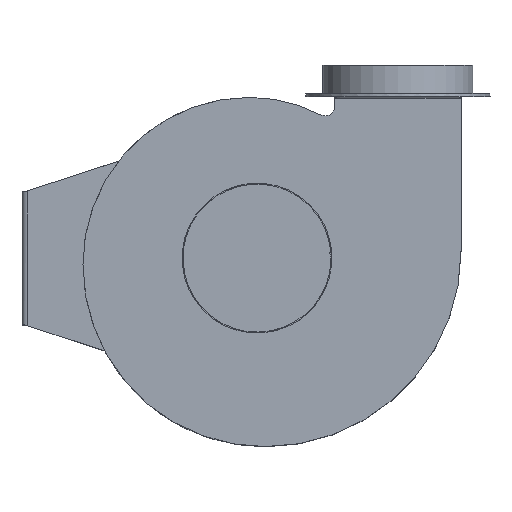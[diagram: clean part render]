
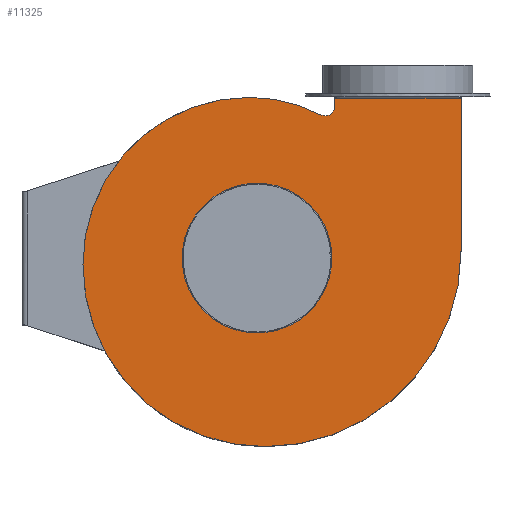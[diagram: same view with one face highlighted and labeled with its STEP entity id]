
A CAD part, top view. The second image highlights one B-rep face of the part: STEP entity #11325.
In plain terms, the highlighted planar face has unit normal (0, 0, 1).
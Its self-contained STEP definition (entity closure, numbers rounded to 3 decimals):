
#92=FACE_BOUND('',#1839,.T.);
#198=PLANE('',#11728);
#1187=FACE_OUTER_BOUND('',#1838,.T.);
#1838=EDGE_LOOP('',(#10242,#10243,#10244,#10245,#10246,#10247,#10248,#10249));
#1839=EDGE_LOOP('',(#10250,#10251,#10252,#10253,#10254));
#2024=CIRCLE('',#11635,1.991);
#2026=CIRCLE('',#11638,79.);
#2049=CIRCLE('',#11700,206.1);
#2052=CIRCLE('',#11704,191.6);
#2055=CIRCLE('',#11711,175.7);
#2057=CIRCLE('',#11714,162.5);
#2059=CIRCLE('',#11717,10.);
#2681=LINE('',#26400,#3434);
#2698=LINE('',#26440,#3451);
#2715=LINE('',#26805,#3468);
#2727=LINE('',#26845,#3480);
#2729=LINE('',#26848,#3482);
#2770=LINE('',#27245,#3523);
#3434=VECTOR('',#12878,10.);
#3451=VECTOR('',#12907,10.);
#3468=VECTOR('',#12956,10.);
#3480=VECTOR('',#12998,10.);
#3482=VECTOR('',#13002,10.);
#3523=VECTOR('',#13169,10.);
#5261=VERTEX_POINT('',#26397);
#5262=VERTEX_POINT('',#26399);
#5278=VERTEX_POINT('',#26437);
#5279=VERTEX_POINT('',#26439);
#5295=VERTEX_POINT('',#26789);
#5296=VERTEX_POINT('',#26790);
#5299=VERTEX_POINT('',#26798);
#5301=VERTEX_POINT('',#26804);
#5314=VERTEX_POINT('',#26844);
#5345=VERTEX_POINT('',#26972);
#5347=VERTEX_POINT('',#26978);
#5350=VERTEX_POINT('',#26989);
#5353=VERTEX_POINT('',#26997);
#6851=EDGE_CURVE('',#5261,#5262,#2681,.T.);
#6872=EDGE_CURVE('',#5278,#5279,#2698,.T.);
#6896=EDGE_CURVE('',#5295,#5296,#2024,.T.);
#6900=EDGE_CURVE('',#5299,#5295,#2026,.T.);
#6903=EDGE_CURVE('',#5301,#5299,#2715,.T.);
#6923=EDGE_CURVE('',#5296,#5314,#2727,.T.);
#6925=EDGE_CURVE('',#5314,#5301,#2729,.T.);
#6984=EDGE_CURVE('',#5262,#5345,#2049,.T.);
#6988=EDGE_CURVE('',#5345,#5347,#2052,.T.);
#6992=EDGE_CURVE('',#5347,#5350,#2055,.T.);
#6995=EDGE_CURVE('',#5350,#5353,#2057,.T.);
#6997=EDGE_CURVE('',#5353,#5278,#2059,.T.);
#7001=EDGE_CURVE('',#5261,#5279,#2770,.T.);
#10242=ORIENTED_EDGE('',*,*,#7001,.T.);
#10243=ORIENTED_EDGE('',*,*,#6872,.F.);
#10244=ORIENTED_EDGE('',*,*,#6997,.F.);
#10245=ORIENTED_EDGE('',*,*,#6995,.F.);
#10246=ORIENTED_EDGE('',*,*,#6992,.F.);
#10247=ORIENTED_EDGE('',*,*,#6988,.F.);
#10248=ORIENTED_EDGE('',*,*,#6984,.F.);
#10249=ORIENTED_EDGE('',*,*,#6851,.F.);
#10250=ORIENTED_EDGE('',*,*,#6903,.T.);
#10251=ORIENTED_EDGE('',*,*,#6900,.T.);
#10252=ORIENTED_EDGE('',*,*,#6896,.T.);
#10253=ORIENTED_EDGE('',*,*,#6923,.T.);
#10254=ORIENTED_EDGE('',*,*,#6925,.T.);
#11325=ADVANCED_FACE('',(#1187,#92),#198,.F.);
#11635=AXIS2_PLACEMENT_3D('',#26791,#12941,#12942);
#11638=AXIS2_PLACEMENT_3D('',#26799,#12949,#12950);
#11700=AXIS2_PLACEMENT_3D('',#26976,#13125,#13126);
#11704=AXIS2_PLACEMENT_3D('',#26984,#13134,#13135);
#11711=AXIS2_PLACEMENT_3D('',#26995,#13149,#13150);
#11714=AXIS2_PLACEMENT_3D('',#27001,#13156,#13157);
#11717=AXIS2_PLACEMENT_3D('',#27004,#13162,#13163);
#11728=AXIS2_PLACEMENT_3D('',#27292,#13192,#13193);
#12878=DIRECTION('',(0.,-1.,0.));
#12907=DIRECTION('',(0.,1.,0.));
#12941=DIRECTION('center_axis',(0.,0.,
-1.));
#12942=DIRECTION('ref_axis',(-0.566,0.825,0.));
#12949=DIRECTION('center_axis',(0.,0.,
-1.));
#12950=DIRECTION('ref_axis',(0.076,-0.997,0.));
#12956=DIRECTION('',(0.963,-0.27,0.));
#12998=DIRECTION('',(0.997,0.076,0.));
#13002=DIRECTION('',(-0.911,-0.413,0.));
#13125=DIRECTION('center_axis',(0.,0.,
-1.));
#13126=DIRECTION('ref_axis',(1.,0.,0.));
#13134=DIRECTION('center_axis',(0.,0.,
-1.));
#13135=DIRECTION('ref_axis',(0.002,-1.,0.));
#13149=DIRECTION('center_axis',(0.,0.,
-1.));
#13150=DIRECTION('ref_axis',(-1.,-0.002,0.));
#13156=DIRECTION('center_axis',(0.,0.,
-1.));
#13157=DIRECTION('ref_axis',(0.,1.,0.));
#13162=DIRECTION('center_axis',(0.,0.,
1.));
#13163=DIRECTION('ref_axis',(-1.,0.,0.));
#13169=DIRECTION('',(-1.,0.,0.));
#13192=DIRECTION('center_axis',(0.,0.,
-1.));
#13193=DIRECTION('ref_axis',(-1.,0.,0.));
#26397=CARTESIAN_POINT('',(462.607,124.522,183.446));
#26399=CARTESIAN_POINT('',(462.607,-36.223,183.446));
#26400=CARTESIAN_POINT('',(462.607,126.218,183.446));
#26437=CARTESIAN_POINT('',(329.607,116.077,183.446));
#26439=CARTESIAN_POINT('',(329.607,124.522,183.446));
#26440=CARTESIAN_POINT('',(329.607,116.077,183.446));
#26789=CARTESIAN_POINT('',(326.246,-36.173,183.446));
#26790=CARTESIAN_POINT('',(325.381,-37.783,183.446));
#26791=CARTESIAN_POINT('Origin',(324.254,-36.141,183.446));
#26798=CARTESIAN_POINT('',(326.405,-38.076,183.446));
#26799=CARTESIAN_POINT('Origin',(247.607,-43.723,183.446));
#26804=CARTESIAN_POINT('',(325.381,-37.79,183.446));
#26805=CARTESIAN_POINT('',(308.82,-33.154,183.446));
#26844=CARTESIAN_POINT('',(325.399,-37.782,183.446));
#26845=CARTESIAN_POINT('',(302.177,-39.553,183.446));
#26848=CARTESIAN_POINT('',(306.496,-46.341,183.446));
#26972=CARTESIAN_POINT('',(256.151,-242.323,183.446));
#26976=CARTESIAN_POINT('Origin',(256.507,-36.223,183.446));
#26978=CARTESIAN_POINT('',(64.207,-50.365,183.446));
#26984=CARTESIAN_POINT('Origin',(255.807,-50.723,183.446));
#26989=CARTESIAN_POINT('',(239.907,125.677,183.446));
#26995=CARTESIAN_POINT('Origin',(239.907,-50.023,183.446));
#26997=CARTESIAN_POINT('',(316.067,106.725,183.446));
#27001=CARTESIAN_POINT('Origin',(239.907,-36.823,183.446));
#27004=CARTESIAN_POINT('Origin',(319.607,116.077,183.446));
#27245=CARTESIAN_POINT('',(370.538,124.522,183.446));
#27292=CARTESIAN_POINT('Origin',(278.469,-34.706,183.446));
